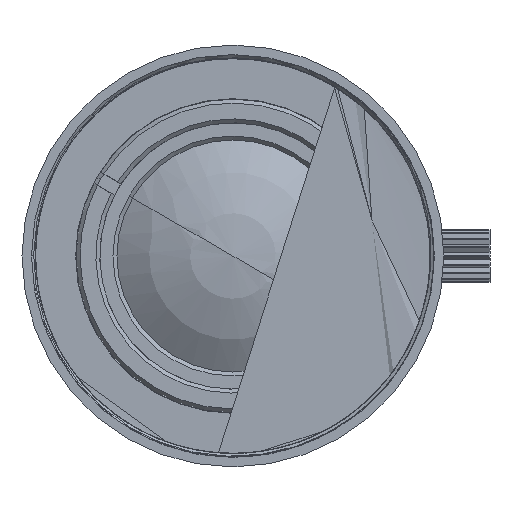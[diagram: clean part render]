
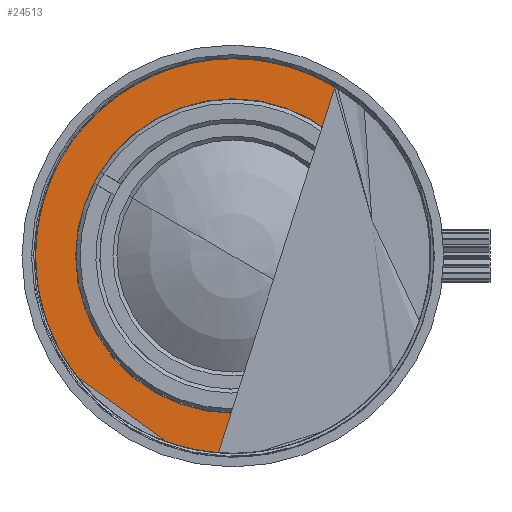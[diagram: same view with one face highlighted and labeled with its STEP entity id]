
A CAD part, left-side view. The second image highlights one B-rep face of the part: STEP entity #24513.
In plain terms, the highlighted planar face has unit normal (-1, 0, 0).
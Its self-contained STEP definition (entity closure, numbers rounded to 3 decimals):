
#22026=CARTESIAN_POINT('',(-16.896,0.,0.));
#22027=DIRECTION('',(1.,0.,0.));
#22028=DIRECTION('',(0.,-0.866,-0.5));
#22029=AXIS2_PLACEMENT_3D('',#22026,#22027,#22028);
#22031=CARTESIAN_POINT('',(-16.896,0.,0.));
#22032=DIRECTION('',(1.,0.,0.));
#22033=DIRECTION('',(0.,0.866,0.5));
#22034=AXIS2_PLACEMENT_3D('',#22031,#22032,#22033);
#22036=CARTESIAN_POINT('',(-16.896,0.,0.));
#22037=DIRECTION('',(-1.,0.,0.));
#22038=DIRECTION('',(0.,-0.866,-0.5));
#22039=AXIS2_PLACEMENT_3D('',#22036,#22037,#22038);
#22041=CARTESIAN_POINT('',(-16.896,0.,0.));
#22042=DIRECTION('',(-1.,0.,0.));
#22043=DIRECTION('',(0.,0.866,0.5));
#22044=AXIS2_PLACEMENT_3D('',#22041,#22042,#22043);
#22631=CARTESIAN_POINT('',(-16.896,13.293,7.675));
#22632=CARTESIAN_POINT('',(-16.896,-13.293,-7.675));
#22633=VERTEX_POINT('',#22631);
#22634=VERTEX_POINT('',#22632);
#22635=CARTESIAN_POINT('',(-16.896,-10.332,
-5.965));
#22636=CARTESIAN_POINT('',(-16.896,10.332,
5.965));
#22637=VERTEX_POINT('',#22635);
#22638=VERTEX_POINT('',#22636);
#24498=CARTESIAN_POINT('',(-16.896,0.,0.));
#24499=DIRECTION('',(1.,0.,0.));
#24500=DIRECTION('',(0.,0.866,0.5));
#24501=AXIS2_PLACEMENT_3D('',#24498,#24499,#24500);
#24502=PLANE('',#24501);
#24503=ORIENTED_EDGE('',*,*,#24491,.T.);
#24504=ORIENTED_EDGE('',*,*,#24480,.T.);
#24505=EDGE_LOOP('',(#24503,#24504));
#24506=FACE_OUTER_BOUND('',#24505,.F.);
#24508=ORIENTED_EDGE('',*,*,#24507,.T.);
#24510=ORIENTED_EDGE('',*,*,#24509,.T.);
#24511=EDGE_LOOP('',(#24508,#24510));
#24512=FACE_BOUND('',#24511,.F.);
#22030=CIRCLE('',#22029,15.35);
#22035=CIRCLE('',#22034,15.35);
#22040=CIRCLE('',#22039,11.93);
#22045=CIRCLE('',#22044,11.93);
#24480=EDGE_CURVE('',#22633,#22634,#22035,.T.);
#24491=EDGE_CURVE('',#22634,#22633,#22030,.T.);
#24507=EDGE_CURVE('',#22637,#22638,#22040,.T.);
#24509=EDGE_CURVE('',#22638,#22637,#22045,.T.);
#24513=ADVANCED_FACE('',(#24506,#24512),#24502,.F.);
